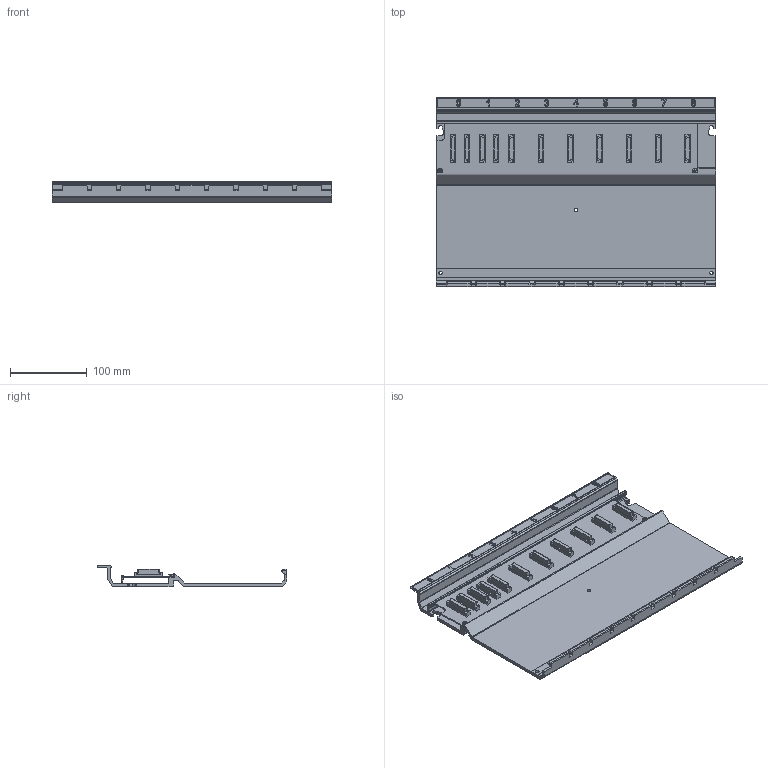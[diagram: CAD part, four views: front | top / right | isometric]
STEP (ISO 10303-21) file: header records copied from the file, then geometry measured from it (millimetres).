
FILE_DESCRIPTION (( 'STEP AP214' ), '1' );
FILE_NAME ('HX9001_20140115.STEP', '2014-01-15T10:13:00', ( 'ALTUS' ), ( '' ), 'SwSTEP 2.0', 'SolidWorks 2011', '' );
FILE_SCHEMA (( 'AUTOMOTIVE_DESIGN' ));
Length unit declared in the file: millimetre
Products named in the file (1): HX9001_20140115
Bounding box: 364.4 x 247.2 x 28.04 mm (x, y, z)
Volume: 528184.7 mm3; surface area: 283359.7 mm2
Topology: 1 solids, 3 shells, 990 faces, 2699 edges, 1754 vertices
Faces by surface type: plane 440, cylinder 305, bspline 199, torus 44, sphere 2
Entity records: 43965 total; most frequent: CARTESIAN_POINT 9139, ORIENTED_EDGE 5390, DIRECTION 4401, EDGE_CURVE 2695, VERTEX_POINT 1752, AXIS2_PLACEMENT_3D 1470, LINE 1461, VECTOR 1461
